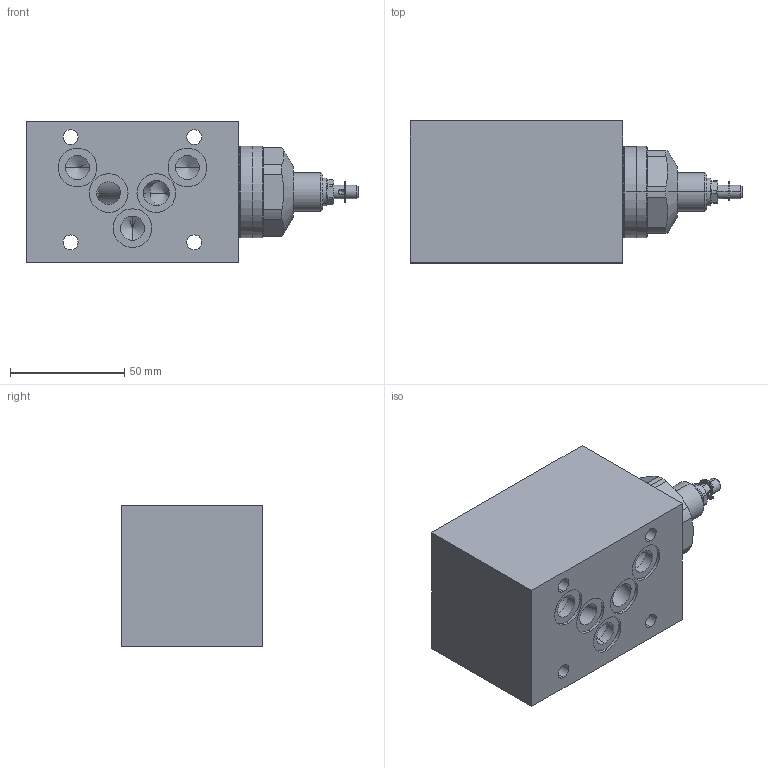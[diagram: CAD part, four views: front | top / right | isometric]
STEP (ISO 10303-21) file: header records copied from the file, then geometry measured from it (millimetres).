
FILE_DESCRIPTION (( 'STEP AP214' ), '1' );
FILE_NAME ('QZSFA10-A_B.STEP', '2017-04-12T13:58:47', ( '' ), ( '' ), 'SwSTEP 2.0', 'SolidWorks 2016', '' );
FILE_SCHEMA (( 'AUTOMOTIVE_DESIGN' ));
Length unit declared in the file: millimetre
Products named in the file (1): QZSFA10-A_B
Bounding box: 145 x 62 x 62 mm (x, y, z)
Volume: 370305 mm3; surface area: 43164.5 mm2
Topology: 2 solids, 2 shells, 257 faces, 625 edges, 387 vertices
Faces by surface type: cylinder 99, plane 97, cone 44, bspline 9, torus 8
Entity records: 10990 total; most frequent: CARTESIAN_POINT 2103, DIRECTION 1296, ORIENTED_EDGE 1214, EDGE_CURVE 607, AXIS2_PLACEMENT_3D 508, VERTEX_POINT 387, EDGE_LOOP 300, LINE 280
